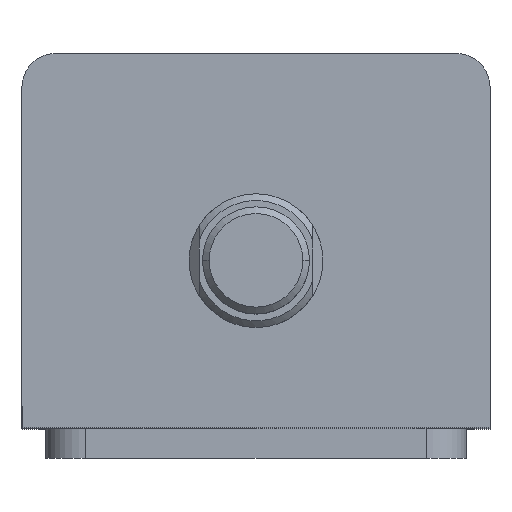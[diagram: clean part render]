
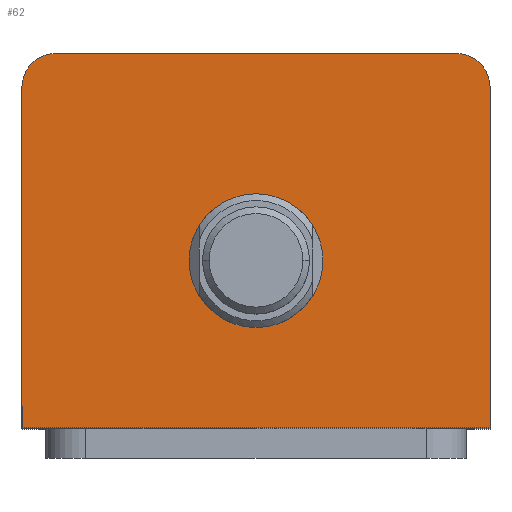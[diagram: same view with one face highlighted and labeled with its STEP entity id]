
A CAD part, top view. The second image highlights one B-rep face of the part: STEP entity #62.
In plain terms, the highlighted planar face has unit normal (0, 0, 1).
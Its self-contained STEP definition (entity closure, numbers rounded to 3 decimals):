
#62 = ADVANCED_FACE ( 'NONE', ( #2436, #2441 ), #2189, .T. ) ;
#244 = AXIS2_PLACEMENT_3D ( 'NONE', #2190, #2184, #2183 ) ;
#267 = AXIS2_PLACEMENT_3D ( 'NONE', #1330, #1331, #1286 ) ;
#274 = AXIS2_PLACEMENT_3D ( 'NONE', #1417, #1413, #1412 ) ;
#295 = AXIS2_PLACEMENT_3D ( 'NONE', #1262, #1263, #1202 ) ;
#321 = AXIS2_PLACEMENT_3D ( 'NONE', #2038, #2037, #2036 ) ;
#477 = VERTEX_POINT ( 'NONE', #2135 ) ;
#853 = ORIENTED_EDGE ( 'NONE', *, *, #1552, .F. ) ;
#1089 = EDGE_LOOP ( 'NONE', ( #1855, #853 ) ) ;
#1101 = EDGE_LOOP ( 'NONE', ( #1854, #1853, #1852, #1851, #1850, #1849 ) ) ;
#1133 = CARTESIAN_POINT ( 'NONE',  ( -10., -3., 119. ) ) ;
#1159 = CARTESIAN_POINT ( 'NONE',  ( 35., 23., 119. ) ) ;
#1163 = CARTESIAN_POINT ( 'NONE',  ( -35., 23., 119. ) ) ;
#1202 = DIRECTION ( 'NONE',  ( 1., 0., 0. ) ) ;
#1238 = CARTESIAN_POINT ( 'NONE',  ( -35., 28., 119. ) ) ;
#1239 = DIRECTION ( 'NONE',  ( 0., -1., 0. ) ) ;
#1262 = CARTESIAN_POINT ( 'NONE',  ( 0., -3., 119. ) ) ;
#1263 = DIRECTION ( 'NONE',  ( 0., 0., 1. ) ) ;
#1286 = DIRECTION ( 'NONE',  ( 1., 0., 0. ) ) ;
#1304 = CARTESIAN_POINT ( 'NONE',  ( 10., -3., 119. ) ) ;
#1324 = CARTESIAN_POINT ( 'NONE',  ( -30., 28., 119. ) ) ;
#1330 = CARTESIAN_POINT ( 'NONE',  ( -30., 23., 119. ) ) ;
#1331 = DIRECTION ( 'NONE',  ( 0., 0., 1. ) ) ;
#1391 = EDGE_CURVE ( 'NONE', #1674, #477, #2467, .T. ) ;
#1412 = DIRECTION ( 'NONE',  ( 1., 0., 0. ) ) ;
#1413 = DIRECTION ( 'NONE',  ( 0., 0., 1. ) ) ;
#1417 = CARTESIAN_POINT ( 'NONE',  ( 30., 23., 119. ) ) ;
#1436 = EDGE_CURVE ( 'NONE', #1749, #1730, #2500, .T. ) ;
#1456 = EDGE_CURVE ( 'NONE', #477, #1711, #2518, .T. ) ;
#1533 = CARTESIAN_POINT ( 'NONE',  ( -35., 28., 119. ) ) ;
#1538 = DIRECTION ( 'NONE',  ( -1., 0., 0. ) ) ;
#1540 = EDGE_CURVE ( 'NONE', #1756, #1674, #2590, .T. ) ;
#1552 = EDGE_CURVE ( 'NONE', #1730, #1749, #2602, .T. ) ;
#1607 = CARTESIAN_POINT ( 'NONE',  ( 30., 28., 119. ) ) ;
#1609 = CARTESIAN_POINT ( 'NONE',  ( -35., -28., 119. ) ) ;
#1611 = EDGE_CURVE ( 'NONE', #1681, #1742, #2693, .T. ) ;
#1645 = EDGE_CURVE ( 'NONE', #1711, #1681, #2707, .T. ) ;
#1660 = EDGE_CURVE ( 'NONE', #1742, #1756, #2718, .T. ) ;
#1674 = VERTEX_POINT ( 'NONE', #1609 ) ;
#1681 = VERTEX_POINT ( 'NONE', #1607 ) ;
#1711 = VERTEX_POINT ( 'NONE', #1159 ) ;
#1730 = VERTEX_POINT ( 'NONE', #1133 ) ;
#1742 = VERTEX_POINT ( 'NONE', #1324 ) ;
#1749 = VERTEX_POINT ( 'NONE', #1304 ) ;
#1756 = VERTEX_POINT ( 'NONE', #1163 ) ;
#1849 = ORIENTED_EDGE ( 'NONE', *, *, #1391, .T. ) ;
#1850 = ORIENTED_EDGE ( 'NONE', *, *, #1540, .T. ) ;
#1851 = ORIENTED_EDGE ( 'NONE', *, *, #1660, .T. ) ;
#1852 = ORIENTED_EDGE ( 'NONE', *, *, #1611, .T. ) ;
#1853 = ORIENTED_EDGE ( 'NONE', *, *, #1645, .T. ) ;
#1854 = ORIENTED_EDGE ( 'NONE', *, *, #1456, .T. ) ;
#1855 = ORIENTED_EDGE ( 'NONE', *, *, #1436, .F. ) ;
#1987 = CARTESIAN_POINT ( 'NONE',  ( 35., 28., 119. ) ) ;
#2004 = DIRECTION ( 'NONE',  ( 0., 1., 0. ) ) ;
#2036 = DIRECTION ( 'NONE',  ( 1., 0., 0. ) ) ;
#2037 = DIRECTION ( 'NONE',  ( 0., 0., 1. ) ) ;
#2038 = CARTESIAN_POINT ( 'NONE',  ( 0., -3., 119. ) ) ;
#2059 = DIRECTION ( 'NONE',  ( 1., 0., 0. ) ) ;
#2082 = CARTESIAN_POINT ( 'NONE',  ( -35., -28., 119. ) ) ;
#2135 = CARTESIAN_POINT ( 'NONE',  ( 35., -28., 119. ) ) ;
#2183 = DIRECTION ( 'NONE',  ( 1., 0., 0. ) ) ;
#2184 = DIRECTION ( 'NONE',  ( 0., 0., 1. ) ) ;
#2189 = PLANE ( 'NONE',  #244 ) ;
#2190 = CARTESIAN_POINT ( 'NONE',  ( 0., 0., 119. ) ) ;
#2436 = FACE_BOUND ( 'NONE', #1089, .T. ) ;
#2441 = FACE_OUTER_BOUND ( 'NONE', #1101, .T. ) ;
#2467 = LINE ( 'NONE', #2082, #2471 ) ;
#2471 = VECTOR ( 'NONE', #2059, 1000. ) ;
#2500 = CIRCLE ( 'NONE', #321, 10. ) ;
#2518 = LINE ( 'NONE', #1987, #2523 ) ;
#2523 = VECTOR ( 'NONE', #2004, 1000. ) ;
#2590 = LINE ( 'NONE', #1238, #2593 ) ;
#2593 = VECTOR ( 'NONE', #1239, 1000. ) ;
#2602 = CIRCLE ( 'NONE', #295, 10. ) ;
#2693 = LINE ( 'NONE', #1533, #2696 ) ;
#2696 = VECTOR ( 'NONE', #1538, 1000. ) ;
#2707 = CIRCLE ( 'NONE', #274, 5. ) ;
#2718 = CIRCLE ( 'NONE', #267, 5. ) ;
